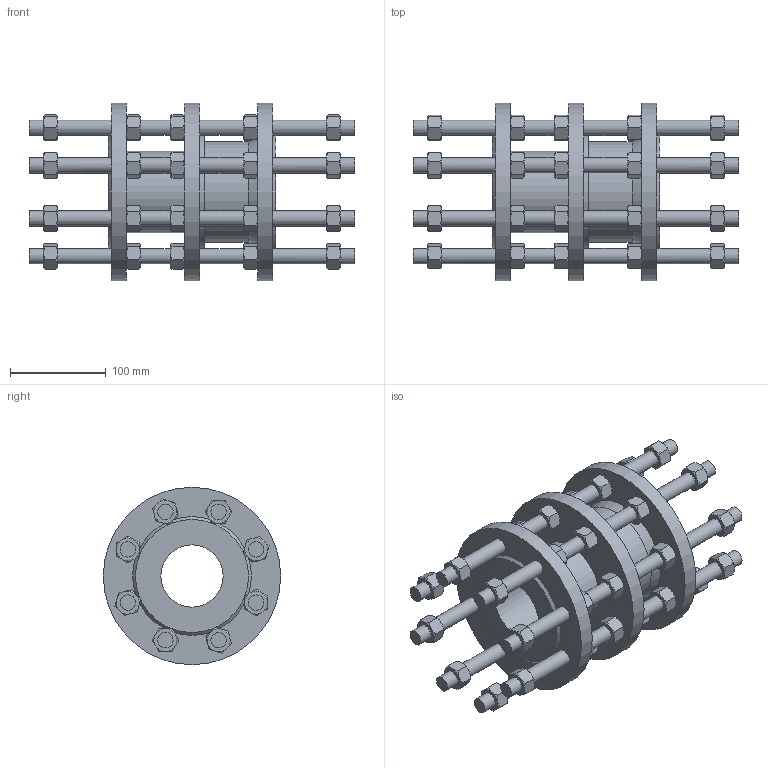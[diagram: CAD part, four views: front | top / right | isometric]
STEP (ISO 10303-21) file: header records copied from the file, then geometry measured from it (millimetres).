
FILE_DESCRIPTION (( 'STEP AP203' ), '1' );
FILE_NAME ('873006500741000.STEP', '2021-11-05T08:03:14', ( '' ), ( '' ), 'SwSTEP 2.0', 'SolidWorks 2020', '' );
FILE_SCHEMA (( 'CONFIG_CONTROL_DESIGN' ));
Length unit declared in the file: millimetre
Products named in the file (1): 873006500741000
Bounding box: 340 x 185 x 185 mm (x, y, z)
Volume: 2337853.5 mm3; surface area: 437147.4 mm2
Topology: 41 solids, 41 shells, 907 faces, 1955 edges, 1153 vertices
Faces by surface type: cone 483, plane 345, cylinder 79
Full cylindrical faces by diameter (mm): 14 x40, 16 x32, 65 x1, 85 x1, 105 x1, 121 x1, 185 x3
Entity records: 28449 total; most frequent: CARTESIAN_POINT 10594, ORIENTED_EDGE 3686, DIRECTION 3342, EDGE_CURVE 1843, AXIS2_PLACEMENT_3D 1551, EDGE_LOOP 1126, VERTEX_POINT 1123, FACE_OUTER_BOUND 986
